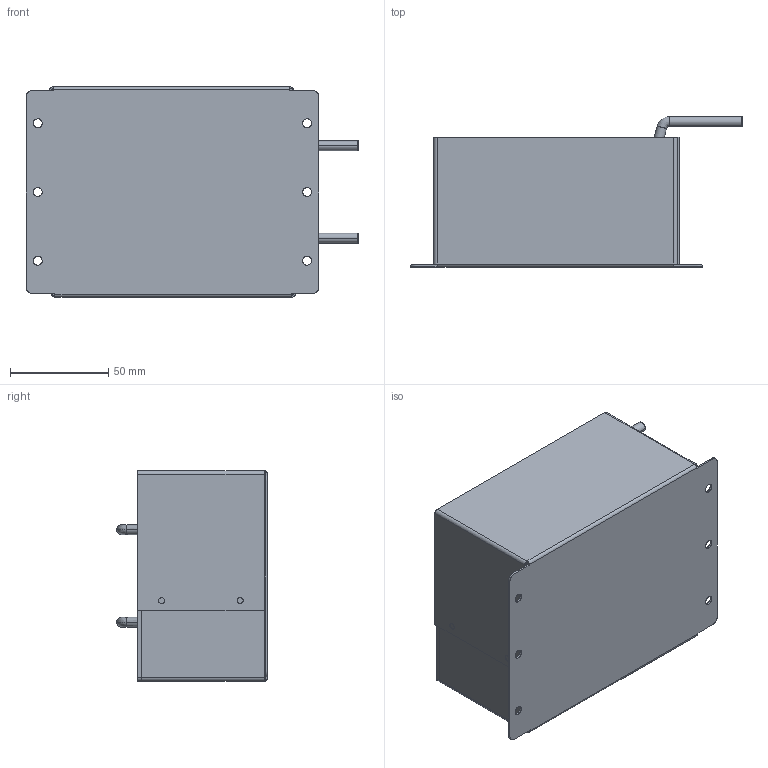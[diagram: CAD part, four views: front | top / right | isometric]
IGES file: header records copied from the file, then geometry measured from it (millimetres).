
Start section: SolidWorks IGES file using analytic representation for surfaces
Global section: file name: 18H\\10.106.230.1\r&d file\05_COMP\02_Mechanical\10_Others\PV_RT 81\网络用3D模型\灌封模型\S-4KW-P-DCL\S-4KW-P-DCL总装.IGS; native system: SolidWorks 2009; preprocessor: SolidWorks 2009; author: 钱雅婧,, ; organization: 11; date: 120507.164747; units: millimetre
Bounding box: 168.9 x 76.5 x 107 mm (x, y, z)
Surface area: 150130.3 mm2 (no closed solid volume)
Topology: 0 solids, 0 shells, 114 faces, 828 edges, 828 vertices
Faces by surface type: bspline 66, revolution 48
